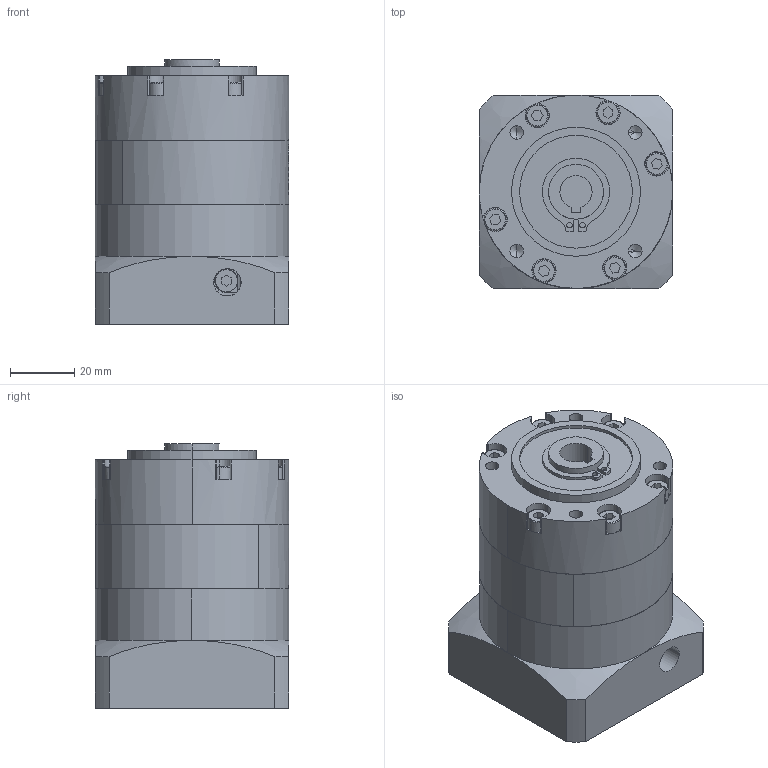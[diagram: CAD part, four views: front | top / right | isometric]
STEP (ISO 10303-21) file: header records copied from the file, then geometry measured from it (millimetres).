
FILE_DESCRIPTION (( 'STEP AP203' ), '1' );
FILE_NAME ('PBE60-L1.STEP', '2022-07-23T07:41:42', ( 'Windows User' ), ( 'P R C' ), 'SwSTEP 2.0', 'SolidWorks 2016', '' );
FILE_SCHEMA (( 'CONFIG_CONTROL_DESIGN' ));
Length unit declared in the file: millimetre
Products named in the file (7): PBE60-L1; 囀鞠褒蹟佪-M4℅12; PBE60 κｳﾝﾈｦ_ﾒｻｼｶﾄﾚｳﾝﾈｦ; PBE60 奻屳唳; PBE60 狟屳唳_D6-60 D7-14 梓袧; PBE60-窣諉啣梓袧_1; GB／T276-94深沟球轴承61905-2RZ
Assembly tree (6 placements, depth 2):
  PBE60-L1
    囀鞠褒蹟佪-M4℅12
    PBE60 κｳﾝﾈｦ_ﾒｻｼｶﾄﾚｳﾝﾈｦ
    PBE60 奻屳唳
    PBE60 狟屳唳_D6-60 D7-14 梓袧
    PBE60-窣諉啣梓袧_1
    GB／T276-94深沟球轴承61905-2RZ
Bounding box: 60 x 60 x 82 mm (x, y, z)
Volume: 199670 mm3; surface area: 62710 mm2
Topology: 6 solids, 6 shells, 975 faces, 2695 edges, 1771 vertices
Faces by surface type: plane 492, bspline 274, cylinder 187, cone 22
Entity records: 41003 total; most frequent: CARTESIAN_POINT 17102, ORIENTED_EDGE 5334, DIRECTION 4109, EDGE_CURVE 2667, VERTEX_POINT 1765, AXIS2_PLACEMENT_3D 1421, LINE 1267, VECTOR 1267
